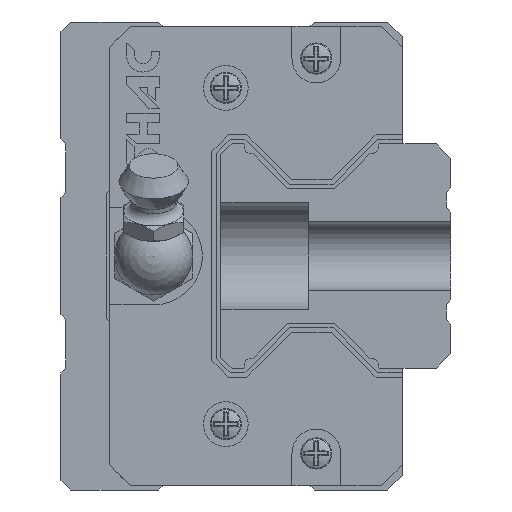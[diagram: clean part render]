
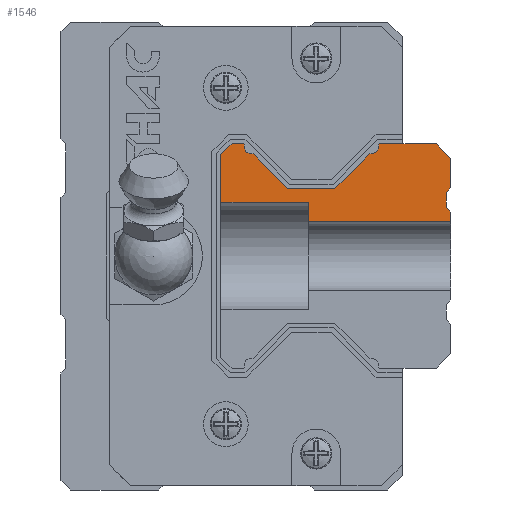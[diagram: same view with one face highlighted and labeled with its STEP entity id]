
A CAD part, left-side view. The second image highlights one B-rep face of the part: STEP entity #1546.
In plain terms, the highlighted planar face has unit normal (-1, 0, 0).
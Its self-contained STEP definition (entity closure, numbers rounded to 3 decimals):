
#1546 = ADVANCED_FACE( '', ( #3131 ), #3132, .F. );
#3131 = FACE_OUTER_BOUND( '', #4792, .T. );
#3132 = PLANE( '', #4793 );
#4792 = EDGE_LOOP( '', ( #8754, #8755, #8756, #8757, #8758, #8759, #8760, #8761, #8762, #8763, #8764, #8765, #8766, #8767, #8768, #8769, #8770, #8771, #8772, #8773 ) );
#4793 = AXIS2_PLACEMENT_3D( '', #8774, #8775, #8776 );
#8754 = ORIENTED_EDGE( '', *, *, #11346, .F. );
#8755 = ORIENTED_EDGE( '', *, *, #10342, .F. );
#8756 = ORIENTED_EDGE( '', *, *, #10049, .F. );
#8757 = ORIENTED_EDGE( '', *, *, #10937, .F. );
#8758 = ORIENTED_EDGE( '', *, *, #10226, .F. );
#8759 = ORIENTED_EDGE( '', *, *, #11347, .F. );
#8760 = ORIENTED_EDGE( '', *, *, #10408, .F. );
#8761 = ORIENTED_EDGE( '', *, *, #11108, .F. );
#8762 = ORIENTED_EDGE( '', *, *, #11348, .F. );
#8763 = ORIENTED_EDGE( '', *, *, #10569, .F. );
#8764 = ORIENTED_EDGE( '', *, *, #10957, .F. );
#8765 = ORIENTED_EDGE( '', *, *, #10872, .T. );
#8766 = ORIENTED_EDGE( '', *, *, #10300, .F. );
#8767 = ORIENTED_EDGE( '', *, *, #10061, .F. );
#8768 = ORIENTED_EDGE( '', *, *, #10107, .F. );
#8769 = ORIENTED_EDGE( '', *, *, #10663, .T. );
#8770 = ORIENTED_EDGE( '', *, *, #10975, .F. );
#8771 = ORIENTED_EDGE( '', *, *, #11260, .F. );
#8772 = ORIENTED_EDGE( '', *, *, #9920, .F. );
#8773 = ORIENTED_EDGE( '', *, *, #11151, .F. );
#8774 = CARTESIAN_POINT( '', ( -75., 20.407, 11.279 ) );
#8775 = DIRECTION( '', ( 1., 0., 0. ) );
#8776 = DIRECTION( '', ( 0., 0., -1. ) );
#9920 = EDGE_CURVE( '', #11880, #11881, #11882, .T. );
#10049 = EDGE_CURVE( '', #12112, #12113, #12114, .F. );
#10061 = EDGE_CURVE( '', #12131, #12132, #12133, .T. );
#10107 = EDGE_CURVE( '', #12212, #12131, #12213, .T. );
#10226 = EDGE_CURVE( '', #12410, #12411, #12412, .T. );
#10300 = EDGE_CURVE( '', #12132, #12538, #12539, .T. );
#10342 = EDGE_CURVE( '', #12113, #12607, #12608, .T. );
#10408 = EDGE_CURVE( '', #12716, #12717, #12718, .T. );
#10569 = EDGE_CURVE( '', #12962, #12963, #12964, .T. );
#10663 = EDGE_CURVE( '', #12212, #13097, #13098, .T. );
#10872 = EDGE_CURVE( '', #13406, #12538, #13407, .T. );
#10937 = EDGE_CURVE( '', #12411, #12112, #13495, .T. );
#10957 = EDGE_CURVE( '', #13406, #12962, #13522, .T. );
#10975 = EDGE_CURVE( '', #13542, #13097, #13543, .T. );
#11108 = EDGE_CURVE( '', #13717, #12716, #13718, .T. );
#11151 = EDGE_CURVE( '', #13775, #11880, #13777, .T. );
#11260 = EDGE_CURVE( '', #11881, #13542, #13909, .T. );
#11346 = EDGE_CURVE( '', #12607, #13775, #14009, .F. );
#11347 = EDGE_CURVE( '', #12717, #12410, #14010, .T. );
#11348 = EDGE_CURVE( '', #12963, #13717, #14011, .T. );
#11880 = VERTEX_POINT( '', #14706 );
#11881 = VERTEX_POINT( '', #14707 );
#11882 = LINE( '', #14708, #14709 );
#12112 = VERTEX_POINT( '', #15059 );
#12113 = VERTEX_POINT( '', #15060 );
#12114 = LINE( '', #15061, #15062 );
#12131 = VERTEX_POINT( '', #15085 );
#12132 = VERTEX_POINT( '', #15086 );
#12133 = LINE( '', #15087, #15088 );
#12212 = VERTEX_POINT( '', #15198 );
#12213 = LINE( '', #15199, #15200 );
#12410 = VERTEX_POINT( '', #15478 );
#12411 = VERTEX_POINT( '', #15479 );
#12412 = LINE( '', #15480, #15481 );
#12538 = VERTEX_POINT( '', #15658 );
#12539 = LINE( '', #15659, #15660 );
#12607 = VERTEX_POINT( '', #15764 );
#12608 = LINE( '', #15765, #15766 );
#12716 = VERTEX_POINT( '', #15915 );
#12717 = VERTEX_POINT( '', #15916 );
#12718 = LINE( '', #15917, #15918 );
#12962 = VERTEX_POINT( '', #16304 );
#12963 = VERTEX_POINT( '', #16305 );
#12964 = LINE( '', #16306, #16307 );
#13097 = VERTEX_POINT( '', #16503 );
#13098 = CIRCLE( '', #16504, 0.815 );
#13406 = VERTEX_POINT( '', #16958 );
#13407 = CIRCLE( '', #16959, 0.815 );
#13495 = LINE( '', #17081, #17082 );
#13522 = LINE( '', #17117, #17118 );
#13542 = VERTEX_POINT( '', #17145 );
#13543 = LINE( '', #17146, #17147 );
#13717 = VERTEX_POINT( '', #17409 );
#13718 = LINE( '', #17410, #17411 );
#13775 = VERTEX_POINT( '', #17493 );
#13777 = LINE( '', #17495, #17496 );
#13909 = LINE( '', #17702, #17703 );
#14009 = LINE( '', #17857, #17858 );
#14010 = LINE( '', #17859, #17860 );
#14011 = LINE( '', #17861, #17862 );
#14706 = CARTESIAN_POINT( '', ( -75., 23.6, 10.36 ) );
#14707 = CARTESIAN_POINT( '', ( -75., 22.46, 11.5 ) );
#14708 = CARTESIAN_POINT( '', ( -75., 23.6, 10.36 ) );
#14709 = VECTOR( '', #18332, 1000. );
#15059 = CARTESIAN_POINT( '', ( -75., 0., 3.5 ) );
#15060 = CARTESIAN_POINT( '', ( -75., 14.6, 3.5 ) );
#15061 = CARTESIAN_POINT( '', ( -75., 0., 3.5 ) );
#15062 = VECTOR( '', #18469, 1000. );
#15085 = CARTESIAN_POINT( '', ( -75., 16.72, 6.9 ) );
#15086 = CARTESIAN_POINT( '', ( -75., 11.911, 6.9 ) );
#15087 = CARTESIAN_POINT( '', ( -75., 16.72, 6.9 ) );
#15088 = VECTOR( '', #18482, 1000. );
#15198 = CARTESIAN_POINT( '', ( -75., 20.292, 10.472 ) );
#15199 = CARTESIAN_POINT( '', ( -75., 20.292, 10.472 ) );
#15200 = VECTOR( '', #18526, 1000. );
#15478 = CARTESIAN_POINT( '', ( -75., 0.5, 5. ) );
#15479 = CARTESIAN_POINT( '', ( -75., 0., 4.5 ) );
#15480 = CARTESIAN_POINT( '', ( -75., 0.5, 5. ) );
#15481 = VECTOR( '', #18638, 1000. );
#15658 = CARTESIAN_POINT( '', ( -75., 8.339, 10.472 ) );
#15659 = CARTESIAN_POINT( '', ( -75., 11.911, 6.9 ) );
#15660 = VECTOR( '', #18726, 1000. );
#15764 = CARTESIAN_POINT( '', ( -75., 14.6, 5.5 ) );
#15765 = CARTESIAN_POINT( '', ( -75., 14.6, 11.279 ) );
#15766 = VECTOR( '', #18765, 1000. );
#15915 = CARTESIAN_POINT( '', ( -75., 0., 7. ) );
#15916 = CARTESIAN_POINT( '', ( -75., 0.5, 6.5 ) );
#15917 = CARTESIAN_POINT( '', ( -75., 0., 7. ) );
#15918 = VECTOR( '', #18831, 1000. );
#16304 = CARTESIAN_POINT( '', ( -75., 7.311, 11.5 ) );
#16305 = CARTESIAN_POINT( '', ( -75., 1.5, 11.5 ) );
#16306 = CARTESIAN_POINT( '', ( -75., 7.311, 11.5 ) );
#16307 = VECTOR( '', #18969, 1000. );
#16503 = CARTESIAN_POINT( '', ( -75., 21.214, 11.394 ) );
#16504 = AXIS2_PLACEMENT_3D( '', #19051, #19052, #19053 );
#16958 = CARTESIAN_POINT( '', ( -75., 7.417, 11.394 ) );
#16959 = AXIS2_PLACEMENT_3D( '', #19269, #19270, #19271 );
#17081 = CARTESIAN_POINT( '', ( -75., 0., 4.5 ) );
#17082 = VECTOR( '', #19336, 1000. );
#17117 = CARTESIAN_POINT( '', ( -75., 7.417, 11.394 ) );
#17118 = VECTOR( '', #19363, 1000. );
#17145 = CARTESIAN_POINT( '', ( -75., 21.32, 11.5 ) );
#17146 = CARTESIAN_POINT( '', ( -75., 21.32, 11.5 ) );
#17147 = VECTOR( '', #19377, 1000. );
#17409 = CARTESIAN_POINT( '', ( -75., 0., 10. ) );
#17410 = CARTESIAN_POINT( '', ( -75., 0., 10. ) );
#17411 = VECTOR( '', #19496, 1000. );
#17493 = CARTESIAN_POINT( '', ( -75., 23.6, 5.5 ) );
#17495 = CARTESIAN_POINT( '', ( -75., 23.6, -10.36 ) );
#17496 = VECTOR( '', #19534, 1000. );
#17702 = CARTESIAN_POINT( '', ( -75., 22.46, 11.5 ) );
#17703 = VECTOR( '', #19615, 1000. );
#17857 = CARTESIAN_POINT( '', ( -75., 0., 5.5 ) );
#17858 = VECTOR( '', #19664, 1000. );
#17859 = CARTESIAN_POINT( '', ( -75., 0.5, 6.5 ) );
#17860 = VECTOR( '', #19665, 1000. );
#17861 = CARTESIAN_POINT( '', ( -75., 1.5, 11.5 ) );
#17862 = VECTOR( '', #19666, 1000. );
#18332 = DIRECTION( '', ( 0., -0.707, 0.707 ) );
#18469 = DIRECTION( '', ( 0., -1., 0. ) );
#18482 = DIRECTION( '', ( 0., -1., 0. ) );
#18526 = DIRECTION( '', ( 0., -0.707, -0.707 ) );
#18638 = DIRECTION( '', ( 0., -0.707, -0.707 ) );
#18726 = DIRECTION( '', ( 0., -0.707, 0.707 ) );
#18765 = DIRECTION( '', ( 0., 0., 1. ) );
#18831 = DIRECTION( '', ( 0., 0.707, -0.707 ) );
#18969 = DIRECTION( '', ( 0., -1., 0. ) );
#19051 = CARTESIAN_POINT( '', ( -75., 20.407, 11.279 ) );
#19052 = DIRECTION( '', ( 1., 0., 0. ) );
#19053 = DIRECTION( '', ( 0., 0., -1. ) );
#19269 = CARTESIAN_POINT( '', ( -75., 8.224, 11.279 ) );
#19270 = DIRECTION( '', ( 1., 0., 0. ) );
#19271 = DIRECTION( '', ( 0., 0., -1. ) );
#19336 = DIRECTION( '', ( 0., 0., -1. ) );
#19363 = DIRECTION( '', ( 0., -0.707, 0.707 ) );
#19377 = DIRECTION( '', ( 0., -0.707, -0.707 ) );
#19496 = DIRECTION( '', ( 0., 0., -1. ) );
#19534 = DIRECTION( '', ( 0., 0., 1. ) );
#19615 = DIRECTION( '', ( 0., -1., 0. ) );
#19664 = DIRECTION( '', ( 0., -1., 0. ) );
#19665 = DIRECTION( '', ( 0., 0., -1. ) );
#19666 = DIRECTION( '', ( 0., -0.707, -0.707 ) );
